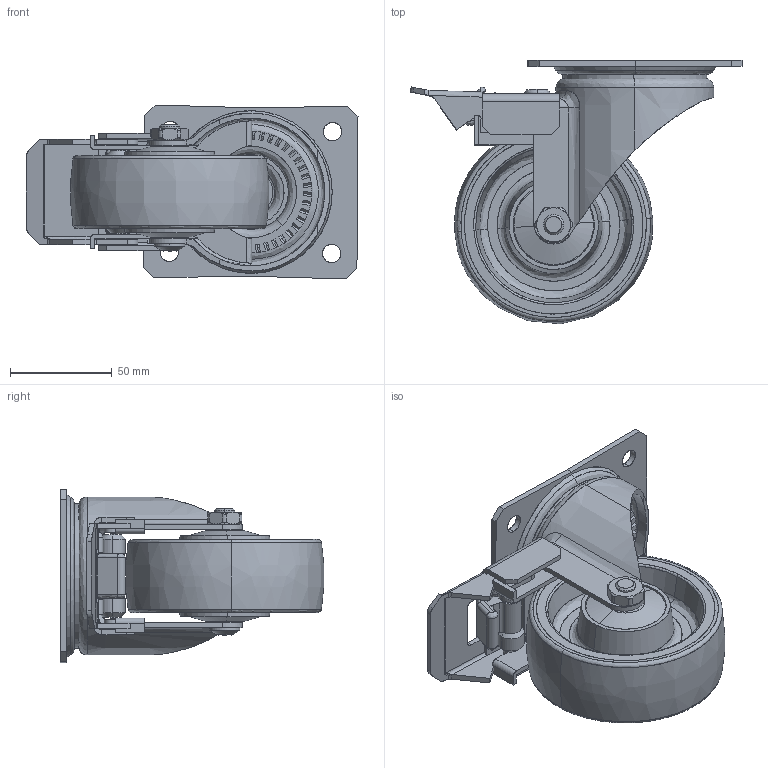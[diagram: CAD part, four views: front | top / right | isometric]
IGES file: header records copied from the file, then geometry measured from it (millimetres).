
Start section: SolidWorks IGES file using analytic representation for surfaces
Global section: file name: S:\Tyokansio\VL\LK\400391_IGES.IGS; native system: SolidWorks 2011; preprocessor: SolidWorks 2011; author: VilleLa; date: 110829.122203; units: millimetre
Bounding box: 163.52 x 129.75 x 85.66 mm (x, y, z)
Surface area: 109729.8 mm2 (no closed solid volume)
Topology: 0 solids, 0 shells, 566 faces, 8796 edges, 8794 vertices
Faces by surface type: bspline 356, revolution 210
